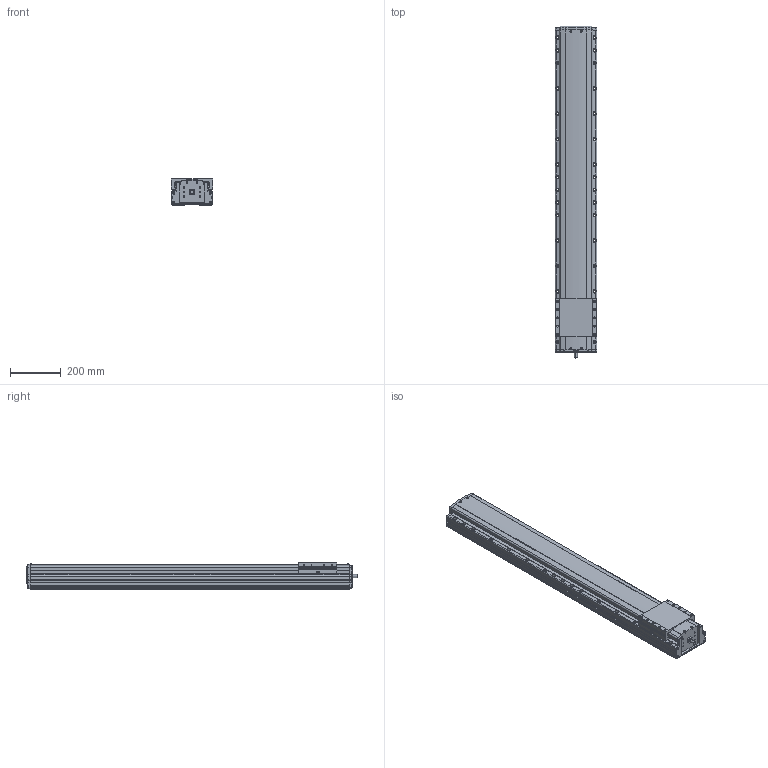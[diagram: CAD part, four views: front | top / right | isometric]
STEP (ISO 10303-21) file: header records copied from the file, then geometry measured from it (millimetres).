
FILE_DESCRIPTION(('STEP AP214'),'1');
FILE_NAME('Z:/Web/3D/PSA165/STP/PSA165-1000 (3D)/PSA165ㅁㅁ-1000.stp','2014-06-24T10:20:23',(' '),(' '),'Spatial InterOp 3D',' ',' ');
FILE_SCHEMA(('automotive_design'));
Length unit declared in the file: millimetre
Products named in the file (18): 스크루 : Round - M4.0 x 12.0; RRCV-PA160; BASE; 스크루 : Round - M4.0 x 10.0; RN15; Screw 20; SLIDE; FRCV
Bounding box: 165 x 1308.8 x 104 mm (x, y, z)
Volume: 17546804.3 mm3; surface area: 1064997.2 mm2
Topology: 18 solids, 18 shells, 2027 faces, 5517 edges, 3513 vertices
Faces by surface type: plane 1064, cylinder 697, cone 193, sphere 32, bspline 25, torus 16
Entity records: 83336 total; most frequent: CARTESIAN_POINT 15365, DIRECTION 10785, ORIENTED_EDGE 10734, EDGE_CURVE 5367, AXIS2_PLACEMENT_3D 3627, LINE 3531, VECTOR 3531, VERTEX_POINT 3513
